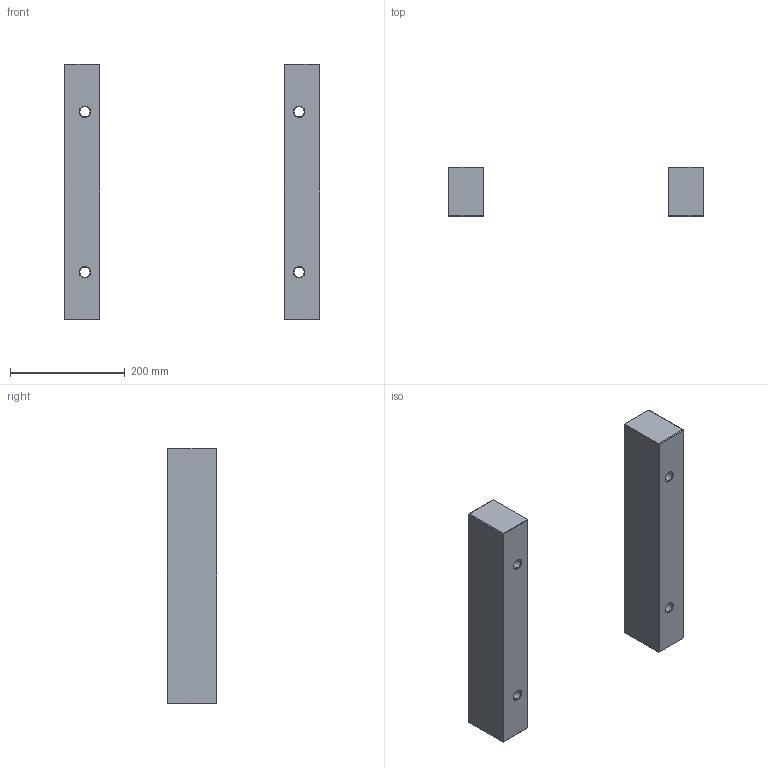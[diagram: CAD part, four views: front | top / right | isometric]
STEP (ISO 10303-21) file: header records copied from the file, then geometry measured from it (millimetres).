
FILE_DESCRIPTION (( 'STEP AP214' ), '1' );
FILE_NAME ('ESP-446X446x86.STEP', '2020-04-14T08:54:39', ( 'August' ), ( '' ), 'SwSTEP 2.0', 'SolidWorks 2018', '' );
FILE_SCHEMA (( 'AUTOMOTIVE_DESIGN' ));
Length unit declared in the file: millimetre
Products named in the file (1): ESP-446X446x86
Bounding box: 446 x 86 x 446 mm (x, y, z)
Volume: 4666006.8 mm3; surface area: 299732.7 mm2
Topology: 2 solids, 2 shells, 76 faces, 152 edges, 80 vertices
Faces by surface type: plane 52, cone 16, cylinder 8
Entity records: 1935 total; most frequent: DIRECTION 338, CARTESIAN_POINT 309, ORIENTED_EDGE 304, EDGE_CURVE 152, VECTOR 120, LINE 120, AXIS2_PLACEMENT_3D 109, EDGE_LOOP 84
